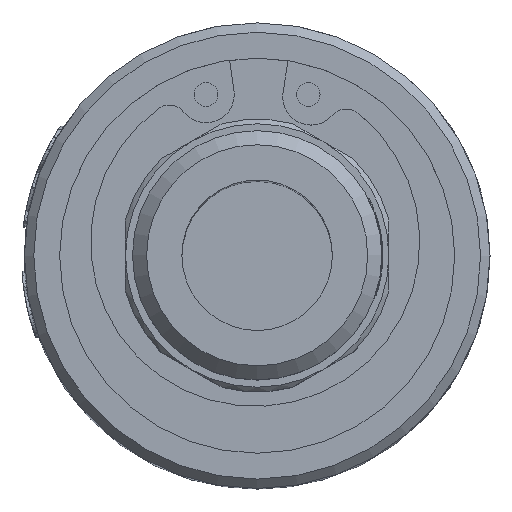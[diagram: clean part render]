
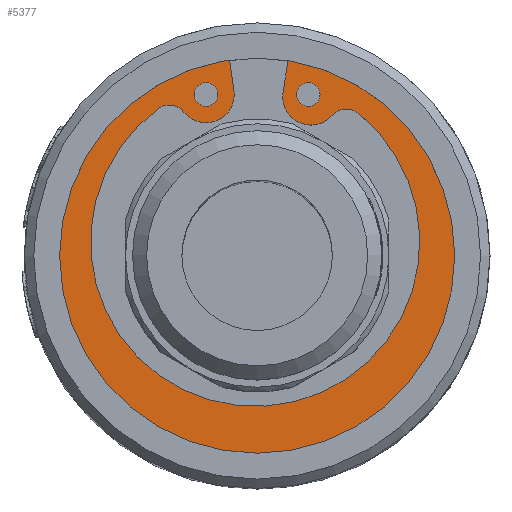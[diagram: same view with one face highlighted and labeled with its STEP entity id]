
A CAD part, top view. The second image highlights one B-rep face of the part: STEP entity #5377.
In plain terms, the highlighted planar face has unit normal (0, 0, 1).
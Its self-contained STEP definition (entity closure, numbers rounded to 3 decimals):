
#5377=ADVANCED_FACE('',(#5882,#5883,#5884),#5744,.T.);
#5744=PLANE('',#18945);
#5882=FACE_BOUND('',#6959,.T.);
#5883=FACE_BOUND('',#6960,.T.);
#5884=FACE_BOUND('',#6961,.T.);
#6959=EDGE_LOOP('',(#13560));
#6960=EDGE_LOOP('',(#13561));
#6961=EDGE_LOOP('',(#13562,#13563,#13564,#13565,#13566,#13567,#13568,#13569,
#13570,#13571));
#7302=LINE('',#39722,#8168);
#7303=LINE('',#39731,#8169);
#8168=VECTOR('',#21114,1.);
#8169=VECTOR('',#21123,1.);
#13560=ORIENTED_EDGE('',*,*,#18129,.F.);
#13561=ORIENTED_EDGE('',*,*,#18130,.F.);
#13562=ORIENTED_EDGE('',*,*,#17580,.F.);
#13563=ORIENTED_EDGE('',*,*,#18131,.T.);
#13564=ORIENTED_EDGE('',*,*,#18132,.T.);
#13565=ORIENTED_EDGE('',*,*,#18133,.T.);
#13566=ORIENTED_EDGE('',*,*,#18134,.T.);
#13567=ORIENTED_EDGE('',*,*,#18126,.F.);
#13568=ORIENTED_EDGE('',*,*,#18135,.T.);
#13569=ORIENTED_EDGE('',*,*,#18136,.T.);
#13570=ORIENTED_EDGE('',*,*,#18137,.F.);
#13571=ORIENTED_EDGE('',*,*,#18138,.T.);
#15053=VERTEX_POINT('',#35099);
#15054=VERTEX_POINT('',#35101);
#15418=VERTEX_POINT('',#39711);
#15419=VERTEX_POINT('',#39712);
#15420=VERTEX_POINT('',#39717);
#15421=VERTEX_POINT('',#39719);
#15422=VERTEX_POINT('',#39721);
#15423=VERTEX_POINT('',#39723);
#15424=VERTEX_POINT('',#39725);
#15425=VERTEX_POINT('',#39728);
#15426=VERTEX_POINT('',#39730);
#15427=VERTEX_POINT('',#39732);
#17580=EDGE_CURVE('',#15053,#15054,#18233,.T.);
#18126=EDGE_CURVE('',#15418,#15419,#18281,.T.);
#18129=EDGE_CURVE('',#15420,#15420,#18282,.T.);
#18130=EDGE_CURVE('',#15421,#15421,#18283,.T.);
#18131=EDGE_CURVE('',#15053,#15422,#18284,.T.);
#18132=EDGE_CURVE('',#15422,#15423,#7302,.T.);
#18133=EDGE_CURVE('',#15423,#15424,#18285,.T.);
#18134=EDGE_CURVE('',#15424,#15419,#18286,.T.);
#18135=EDGE_CURVE('',#15418,#15425,#18287,.T.);
#18136=EDGE_CURVE('',#15425,#15426,#18288,.T.);
#18137=EDGE_CURVE('',#15427,#15426,#7303,.T.);
#18138=EDGE_CURVE('',#15427,#15054,#18289,.T.);
#18233=CIRCLE('',#18789,22.25);
#18281=CIRCLE('',#18935,17.5);
#18282=CIRCLE('',#18937,1.25);
#18283=CIRCLE('',#18938,1.25);
#18284=CIRCLE('',#18939,1.);
#18285=CIRCLE('',#18940,3.);
#18286=CIRCLE('',#18941,2.);
#18287=CIRCLE('',#18942,2.);
#18288=CIRCLE('',#18943,3.);
#18289=CIRCLE('',#18944,1.);
#18789=AXIS2_PLACEMENT_3D('',#35100,#20627,#20628);
#18935=AXIS2_PLACEMENT_3D('',#39710,#21102,#21103);
#18937=AXIS2_PLACEMENT_3D('',#39716,#21108,#21109);
#18938=AXIS2_PLACEMENT_3D('',#39718,#21110,#21111);
#18939=AXIS2_PLACEMENT_3D('',#39720,#21112,#21113);
#18940=AXIS2_PLACEMENT_3D('',#39724,#21115,#21116);
#18941=AXIS2_PLACEMENT_3D('',#39726,#21117,#21118);
#18942=AXIS2_PLACEMENT_3D('',#39727,#21119,#21120);
#18943=AXIS2_PLACEMENT_3D('',#39729,#21121,#21122);
#18944=AXIS2_PLACEMENT_3D('',#39733,#21124,#21125);
#18945=AXIS2_PLACEMENT_3D('',#39734,#21126,#21127);
#20627=DIRECTION('',(0.,0.,-1.));
#20628=DIRECTION('',(1.,0.,0.));
#21102=DIRECTION('',(0.,0.,1.));
#21103=DIRECTION('',(1.,0.,0.));
#21108=DIRECTION('',(0.,0.,1.));
#21109=DIRECTION('',(1.,0.,0.));
#21110=DIRECTION('',(0.,0.,1.));
#21111=DIRECTION('',(1.,0.,0.));
#21112=DIRECTION('',(0.,0.,1.));
#21113=DIRECTION('',(1.,0.,0.));
#21114=DIRECTION('',(-0.156,-0.988,0.));
#21115=DIRECTION('',(0.,0.,1.));
#21116=DIRECTION('',(1.,0.,0.));
#21117=DIRECTION('',(0.,0.,-1.));
#21118=DIRECTION('',(1.,0.,0.));
#21119=DIRECTION('',(0.,0.,-1.));
#21120=DIRECTION('',(1.,0.,0.));
#21121=DIRECTION('',(0.,0.,1.));
#21122=DIRECTION('',(1.,0.,0.));
#21123=DIRECTION('',(0.139,-0.99,0.));
#21124=DIRECTION('',(0.,0.,1.));
#21125=DIRECTION('',(1.,0.,0.));
#21126=DIRECTION('',(0.,0.,1.));
#21127=DIRECTION('',(1.,0.,0.));
#35099=CARTESIAN_POINT('',(4.511,21.788,62.5));
#35100=CARTESIAN_POINT('',(0.,0.,62.5));
#35101=CARTESIAN_POINT('',(-4.13,21.863,62.5));
#39710=CARTESIAN_POINT('',(-0.209,1.485,62.5));
#39711=CARTESIAN_POINT('',(-10.519,15.626,62.5));
#39712=CARTESIAN_POINT('',(10.721,15.153,62.5));
#39716=CARTESIAN_POINT('',(-5.438,17.135,62.5));
#39717=CARTESIAN_POINT('',(-4.188,17.135,62.5));
#39718=CARTESIAN_POINT('',(5.438,17.135,62.5));
#39719=CARTESIAN_POINT('',(6.688,17.135,62.5));
#39720=CARTESIAN_POINT('',(4.308,20.809,62.5));
#39721=CARTESIAN_POINT('',(3.321,20.965,62.5));
#39722=CARTESIAN_POINT('',(0.,0.,62.5));
#39723=CARTESIAN_POINT('',(2.749,17.356,62.5));
#39724=CARTESIAN_POINT('',(5.712,16.887,62.5));
#39725=CARTESIAN_POINT('',(7.968,14.909,62.5));
#39726=CARTESIAN_POINT('',(9.472,13.591,62.5));
#39727=CARTESIAN_POINT('',(-9.341,14.01,62.5));
#39728=CARTESIAN_POINT('',(-7.779,15.26,62.5));
#39729=CARTESIAN_POINT('',(-5.438,17.135,62.5));
#39730=CARTESIAN_POINT('',(-2.467,17.552,62.5));
#39731=CARTESIAN_POINT('',(0.,0.,62.5));
#39732=CARTESIAN_POINT('',(-2.954,21.02,62.5));
#39733=CARTESIAN_POINT('',(-3.944,20.881,62.5));
#39734=CARTESIAN_POINT('',(0.,0.,62.5));
